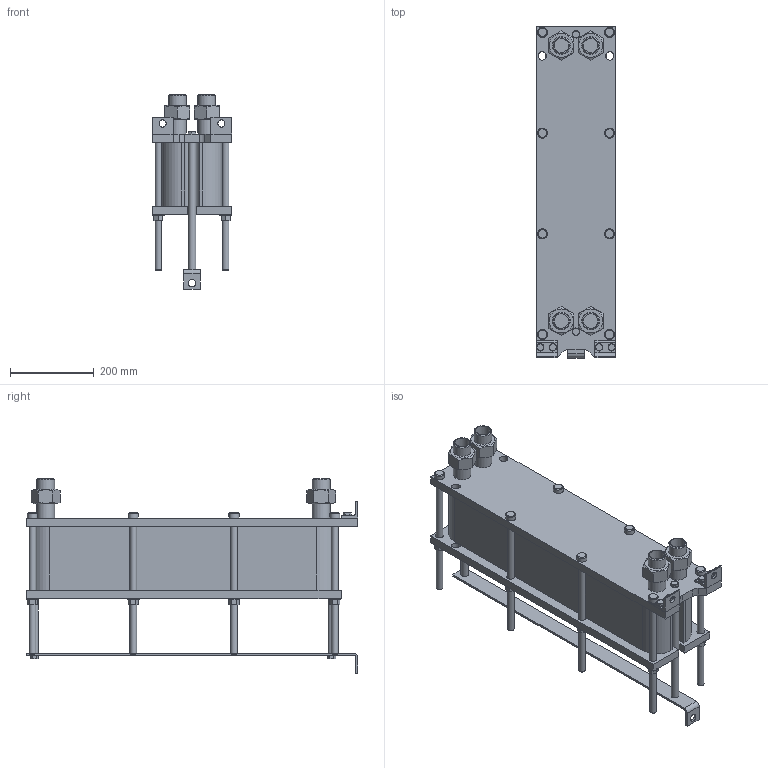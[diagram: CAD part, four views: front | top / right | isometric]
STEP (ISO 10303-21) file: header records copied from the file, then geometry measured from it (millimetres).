
FILE_DESCRIPTION(/* description */ (''),/* implementation_level */ '2;1');
FILE_NAME(/* name */ 'C:\Users\zhuro\Desktop\ENCO\TO\ЭН-008\ЭН-0,5-008-49-1.stp',/* time_stamp */ '2022-06-06T10:49:14+03:00',/* author */ ('zhuro'),/* organization */ (''),/* preprocessor_version */ 'ST-DEVELOPER v18.1',/* originating_system */ 'Autodesk Inventor 2022',/* authorisation */ '');
FILE_SCHEMA (('AUTOMOTIVE_DESIGN { 1 0 10303 214 3 1 1 }'));
Length unit declared in the file: millimetre
Products named in the file (1): ЭН-0,5-008-49-1
Bounding box: 190 x 790 x 464.2 mm (x, y, z)
Volume: 22240106.7 mm3; surface area: 1590124.4 mm2
Topology: 40 solids, 40 shells, 428 faces, 924 edges, 606 vertices
Faces by surface type: plane 273, cylinder 109, cone 40, torus 6
Full cylindrical faces by diameter (mm): 12 x6, 14 x2, 16 x20, 17 x8, 18 x19, 20 x5, 24 x8, 28 x8, 34.3 x8, 42.3 x8
Entity records: 15843 total; most frequent: CARTESIAN_POINT 5991, DIRECTION 1984, ORIENTED_EDGE 1848, EDGE_CURVE 924, AXIS2_PLACEMENT_3D 715, VERTEX_POINT 606, LINE 554, VECTOR 554
